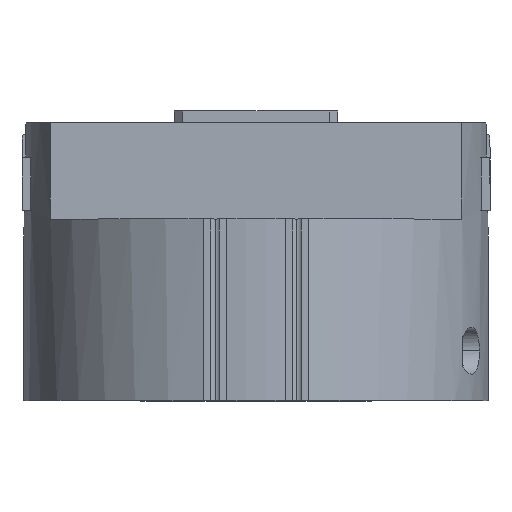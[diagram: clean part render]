
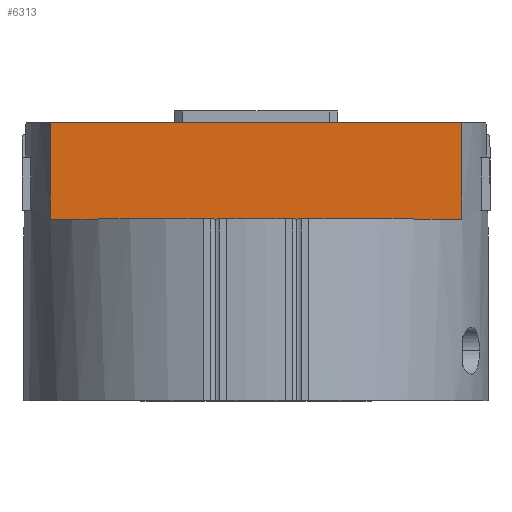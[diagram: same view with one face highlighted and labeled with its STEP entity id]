
A CAD part, top view. The second image highlights one B-rep face of the part: STEP entity #6313.
In plain terms, the highlighted planar face has unit normal (0, 0, 1).
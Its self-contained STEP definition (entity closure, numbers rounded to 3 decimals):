
#3259 = EDGE_CURVE ( 'NONE', #88024, #99707, #93493, .T. ) ;
#5205 = VECTOR ( 'NONE', #56813, 1000. ) ;
#6313 = ADVANCED_FACE ( 'NONE', ( #61686 ), #75790, .F. ) ;
#8019 = DIRECTION ( 'NONE',  ( -1., 0., 0. ) ) ;
#18645 = VECTOR ( 'NONE', #107180, 1000. ) ;
#18666 = VERTEX_POINT ( 'NONE', #83191 ) ;
#27696 = LINE ( 'NONE', #48302, #5205 ) ;
#28129 = CARTESIAN_POINT ( 'NONE',  ( -70.365, 95., 37. ) ) ;
#29387 = EDGE_CURVE ( 'NONE', #99707, #18666, #39186, .T. ) ;
#31463 = AXIS2_PLACEMENT_3D ( 'NONE', #66216, #84263, #33574 ) ;
#33574 = DIRECTION ( 'NONE',  ( -1., 0., 0. ) ) ;
#36029 = VERTEX_POINT ( 'NONE', #28129 ) ;
#39186 = LINE ( 'NONE', #67257, #61715 ) ;
#47232 = DIRECTION ( 'NONE',  ( 0., -1., 0. ) ) ;
#47956 = CARTESIAN_POINT ( 'NONE',  ( -70.365, 95., 37. ) ) ;
#48302 = CARTESIAN_POINT ( 'NONE',  ( 0., 95., 37. ) ) ;
#54715 = ORIENTED_EDGE ( 'NONE', *, *, #94789, .F. ) ;
#54961 = EDGE_LOOP ( 'NONE', ( #70381, #56576, #67052, #54715 ) ) ;
#56576 = ORIENTED_EDGE ( 'NONE', *, *, #29387, .F. ) ;
#56813 = DIRECTION ( 'NONE',  ( 1., 0., 0. ) ) ;
#57352 = EDGE_CURVE ( 'NONE', #18666, #36029, #58433, .T. ) ;
#58433 = LINE ( 'NONE', #47956, #18645 ) ;
#61686 = FACE_OUTER_BOUND ( 'NONE', #54961, .T. ) ;
#61715 = VECTOR ( 'NONE', #8019, 1000. ) ;
#66216 = CARTESIAN_POINT ( 'NONE',  ( -70.365, 62., 37. ) ) ;
#67052 = ORIENTED_EDGE ( 'NONE', *, *, #3259, .F. ) ;
#67257 = CARTESIAN_POINT ( 'NONE',  ( 0., 62., 37. ) ) ;
#70381 = ORIENTED_EDGE ( 'NONE', *, *, #57352, .F. ) ;
#75790 = PLANE ( 'NONE',  #31463 ) ;
#83191 = CARTESIAN_POINT ( 'NONE',  ( -70.365, 62., 37. ) ) ;
#84263 = DIRECTION ( 'NONE',  ( 0., 0., -1. ) ) ;
#88024 = VERTEX_POINT ( 'NONE', #103648 ) ;
#90844 = VECTOR ( 'NONE', #47232, 1000. ) ;
#92780 = CARTESIAN_POINT ( 'NONE',  ( 70.365, 62., 37. ) ) ;
#93493 = LINE ( 'NONE', #106465, #90844 ) ;
#94789 = EDGE_CURVE ( 'NONE', #36029, #88024, #27696, .T. ) ;
#99707 = VERTEX_POINT ( 'NONE', #92780 ) ;
#103648 = CARTESIAN_POINT ( 'NONE',  ( 70.365, 95., 37. ) ) ;
#106465 = CARTESIAN_POINT ( 'NONE',  ( 70.365, 95., 37. ) ) ;
#107180 = DIRECTION ( 'NONE',  ( 0., 1., 0. ) ) ;
